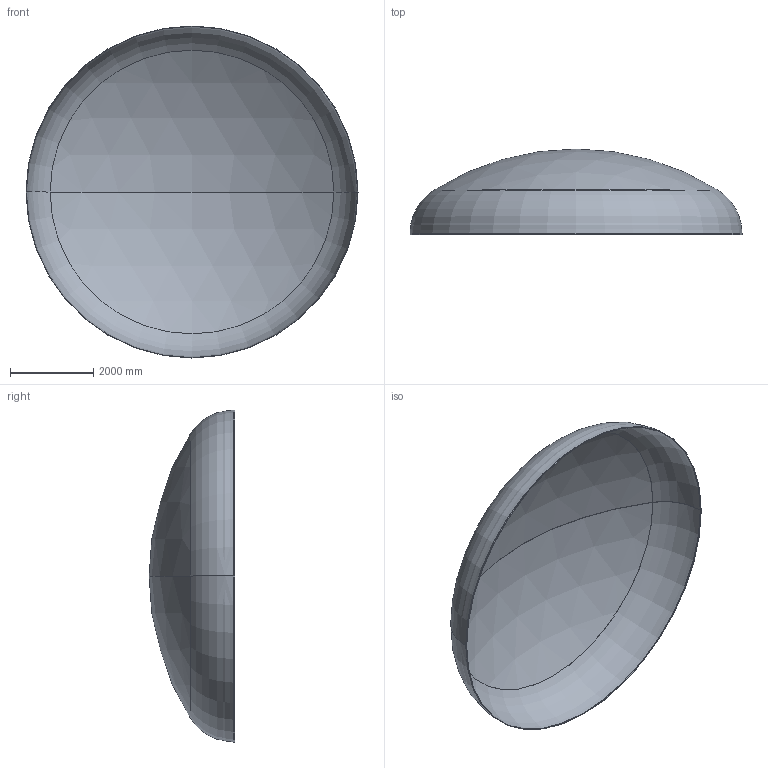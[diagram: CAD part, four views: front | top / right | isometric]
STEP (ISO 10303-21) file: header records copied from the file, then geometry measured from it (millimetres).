
FILE_DESCRIPTION (( 'STEP AP203' ), '1' );
FILE_NAME ('DIN 28013 Korbbogenform_-_Boden DIN 28013 - 8000 x 25 - I - s=8.step', '2016-07-04T10:58:03', ( '' ), ( '' ), 'SwSTEP 2.0', 'SolidWorks 2013', '' );
FILE_SCHEMA (( 'CONFIG_CONTROL_DESIGN' ));
Length unit declared in the file: millimetre
Products named in the file (1): DIN 28013 Korbbogenform_-_Boden DIN 28013 - 8000 x 25 - I - s=8
Bounding box: 8000 x 2062.62 x 8000 mm (x, y, z)
Volume: 561110824.6 mm3; surface area: 140478642.1 mm2
Topology: 1 solids, 1 shells, 13 faces, 24 edges, 14 vertices
Faces by surface type: torus 4, cylinder 4, sphere 4, plane 1
Entity records: 407 total; most frequent: DIRECTION 72, CARTESIAN_POINT 52, ORIENTED_EDGE 48, AXIS2_PLACEMENT_3D 34, EDGE_CURVE 24, CIRCLE 20, VERTEX_POINT 14, EDGE_LOOP 14
